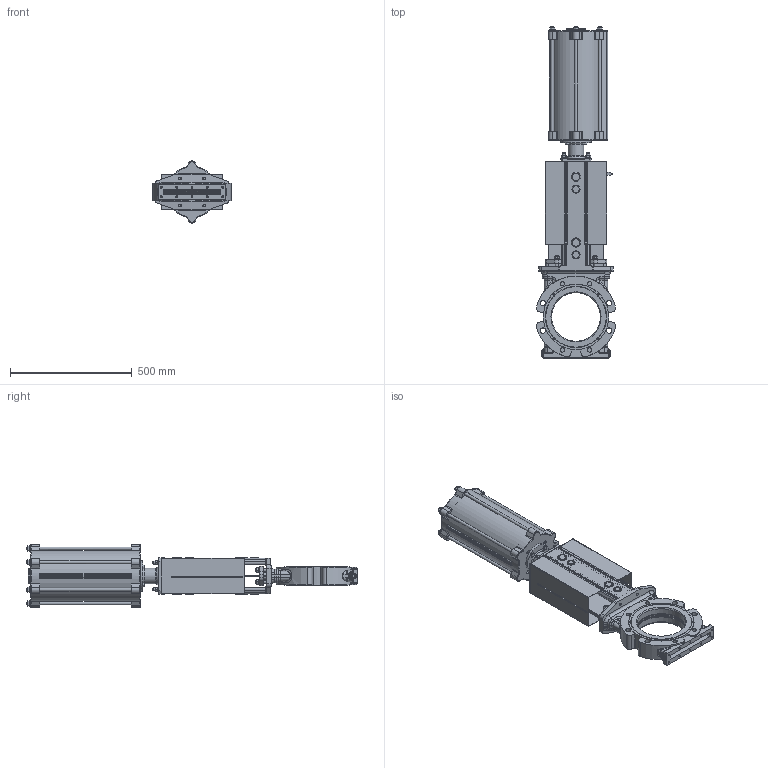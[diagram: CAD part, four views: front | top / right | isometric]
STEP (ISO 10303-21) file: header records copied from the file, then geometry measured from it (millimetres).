
FILE_DESCRIPTION(/* description */ (''),/* implementation_level */ '2;1');
FILE_NAME(/* name */ 'F:\3D-block färdiga för export\SLV-SLF\DN 200\SLV-DN200-PN10-FRSC200-270.stp',/* time_stamp */ '2021-06-28T09:43:36+02:00',/* author */ ('MATZET'),/* organization */ (''),/* preprocessor_version */ 'ST-DEVELOPER v18',/* originating_system */ 'Autodesk Inventor 2020',/* authorisation */ '');
FILE_SCHEMA (('AUTOMOTIVE_DESIGN { 1 0 10303 214 3 1 1 }'));
Products named in the file (1): SLV-DN200-PN10-FRSC200-270-LDR_Shrinkwrap_1
Bounding box: 326.89 x 1366 x 256 mm (x, y, z)
Volume: 12582878.9 mm3; surface area: 3040156.7 mm2
Topology: 1 solids, 1 shells, 2873 faces, 7258 edges, 4531 vertices
Faces by surface type: plane 961, cylinder 763, bspline 359, cone 333, torus 321, sphere 136
Full cylindrical faces by diameter (mm): 3 x8, 4 x2, 4.134 x8, 4.2 x16, 4.5 x8, 4.917 x11, 6 x1, 6.647 x10, 7 x8, 8.88 x1, 9.5 x2, 10 x9, 10.106 x2, 12 x38, 13 x22, 13.835 x4, 14 x4, 14.63 x4, 15 x4, 17.294 x8, 18 x2, 18.631 x4, 19 x4, 20.5 x1, 22 x4, 23 x4, 24 x19, 25.8 x2, 27 x1, 28 x4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
Entity records: 102413 total; most frequent: CARTESIAN_POINT 31727, DIRECTION 14705, ORIENTED_EDGE 14412, EDGE_CURVE 7206, AXIS2_PLACEMENT_3D 6190, VERTEX_POINT 4531, CIRCLE 3364, EDGE_LOOP 3199
